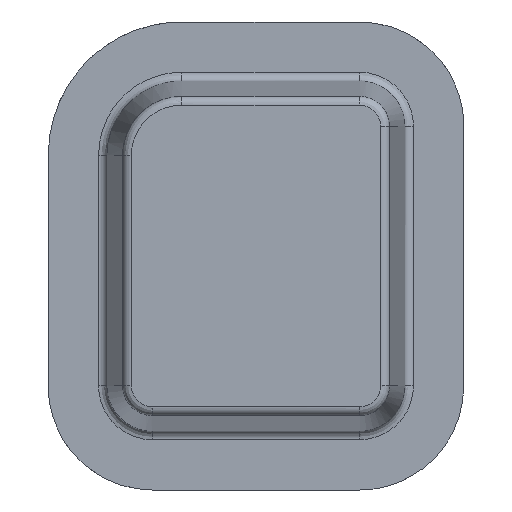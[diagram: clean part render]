
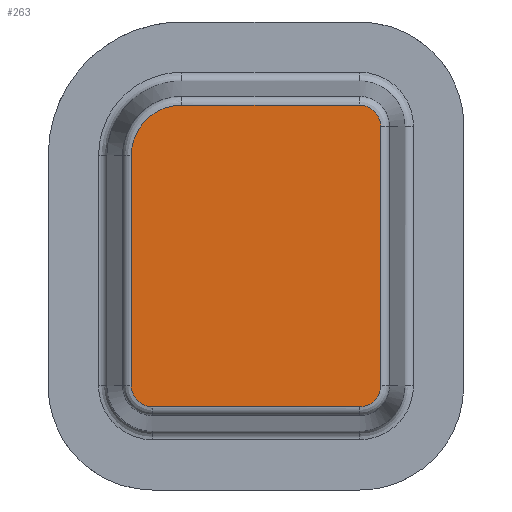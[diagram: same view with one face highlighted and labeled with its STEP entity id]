
A CAD part, front view. The second image highlights one B-rep face of the part: STEP entity #263.
In plain terms, the highlighted planar face has unit normal (0, -1, 0).
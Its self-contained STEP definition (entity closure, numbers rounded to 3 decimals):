
#144=CARTESIAN_POINT('Axis2P3D Location',(46.58,0.,53.42)) ;
#149=CARTESIAN_POINT('Line Origine',(2.749,0.,49.5)) ;
#153=CARTESIAN_POINT('Vertex',(2.749,0.,89.)) ;
#155=CARTESIAN_POINT('Vertex',(2.749,0.,10.)) ;
#159=CARTESIAN_POINT('Control Point',(2.749,0.,10.)) ;
#160=CARTESIAN_POINT('Control Point',(2.749,0.,9.038)) ;
#161=CARTESIAN_POINT('Control Point',(2.908,0.,8.077)) ;
#162=CARTESIAN_POINT('Control Point',(3.227,0.,7.152)) ;
#163=CARTESIAN_POINT('Control Point',(4.158,0.,5.442)) ;
#164=CARTESIAN_POINT('Control Point',(5.589,0.,4.124)) ;
#165=CARTESIAN_POINT('Control Point',(6.409,0.,3.59)) ;
#166=CARTESIAN_POINT('Control Point',(7.599,0.,3.072)) ;
#167=CARTESIAN_POINT('Control Point',(8.86,0.,2.828)) ;
#168=CARTESIAN_POINT('Control Point',(9.179,0.,2.785)) ;
#169=CARTESIAN_POINT('Control Point',(9.535,0.,2.756)) ;
#170=CARTESIAN_POINT('Control Point',(9.892,0.,2.75)) ;
#171=CARTESIAN_POINT('Control Point',(9.928,0.,2.749)) ;
#172=CARTESIAN_POINT('Control Point',(9.964,0.,2.749)) ;
#173=CARTESIAN_POINT('Control Point',(10.,0.,2.749)) ;
#174=CARTESIAN_POINT('Vertex',(10.,0.,2.749)) ;
#177=CARTESIAN_POINT('Line Origine',(45.5,0.,2.749)) ;
#181=CARTESIAN_POINT('Vertex',(81.,0.,2.749)) ;
#185=CARTESIAN_POINT('Control Point',(81.,0.,2.749)) ;
#186=CARTESIAN_POINT('Control Point',(81.962,0.,2.749)) ;
#187=CARTESIAN_POINT('Control Point',(82.923,0.,2.908)) ;
#188=CARTESIAN_POINT('Control Point',(83.848,0.,3.227)) ;
#189=CARTESIAN_POINT('Control Point',(85.558,0.,4.158)) ;
#190=CARTESIAN_POINT('Control Point',(86.876,0.,5.589)) ;
#191=CARTESIAN_POINT('Control Point',(87.41,0.,6.409)) ;
#192=CARTESIAN_POINT('Control Point',(87.928,0.,7.599)) ;
#193=CARTESIAN_POINT('Control Point',(88.172,0.,8.86)) ;
#194=CARTESIAN_POINT('Control Point',(88.215,0.,9.179)) ;
#195=CARTESIAN_POINT('Control Point',(88.244,0.,9.535)) ;
#196=CARTESIAN_POINT('Control Point',(88.25,0.,9.892)) ;
#197=CARTESIAN_POINT('Control Point',(88.251,0.,9.928)) ;
#198=CARTESIAN_POINT('Control Point',(88.251,0.,9.964)) ;
#199=CARTESIAN_POINT('Control Point',(88.251,0.,10.)) ;
#200=CARTESIAN_POINT('Vertex',(88.251,0.,10.)) ;
#203=CARTESIAN_POINT('Line Origine',(88.251,0.,54.5)) ;
#207=CARTESIAN_POINT('Vertex',(88.251,0.,99.)) ;
#211=CARTESIAN_POINT('Control Point',(88.251,0.,99.)) ;
#212=CARTESIAN_POINT('Control Point',(88.251,0.,99.962)) ;
#213=CARTESIAN_POINT('Control Point',(88.092,0.,100.923)) ;
#214=CARTESIAN_POINT('Control Point',(87.773,0.,101.848)) ;
#215=CARTESIAN_POINT('Control Point',(86.842,0.,103.558)) ;
#216=CARTESIAN_POINT('Control Point',(85.411,0.,104.876)) ;
#217=CARTESIAN_POINT('Control Point',(84.591,0.,105.41)) ;
#218=CARTESIAN_POINT('Control Point',(83.401,0.,105.928)) ;
#219=CARTESIAN_POINT('Control Point',(82.14,0.,106.172)) ;
#220=CARTESIAN_POINT('Control Point',(81.821,0.,106.215)) ;
#221=CARTESIAN_POINT('Control Point',(81.465,0.,106.244)) ;
#222=CARTESIAN_POINT('Control Point',(81.108,0.,106.25)) ;
#223=CARTESIAN_POINT('Control Point',(81.072,0.,106.251)) ;
#224=CARTESIAN_POINT('Control Point',(81.036,0.,106.251)) ;
#225=CARTESIAN_POINT('Control Point',(81.,0.,106.251)) ;
#226=CARTESIAN_POINT('Vertex',(81.,0.,106.251)) ;
#229=CARTESIAN_POINT('Line Origine',(50.5,0.,106.251)) ;
#233=CARTESIAN_POINT('Vertex',(20.,0.,106.251)) ;
#237=CARTESIAN_POINT('Control Point',(20.,0.,106.251)) ;
#238=CARTESIAN_POINT('Control Point',(18.077,0.,106.251)) ;
#239=CARTESIAN_POINT('Control Point',(16.154,0.,105.983)) ;
#240=CARTESIAN_POINT('Control Point',(14.282,0.,105.447)) ;
#241=CARTESIAN_POINT('Control Point',(10.736,0.,103.869)) ;
#242=CARTESIAN_POINT('Control Point',(7.757,0.,101.383)) ;
#243=CARTESIAN_POINT('Control Point',(6.451,0.,99.938)) ;
#244=CARTESIAN_POINT('Control Point',(4.493,0.,97.045)) ;
#245=CARTESIAN_POINT('Control Point',(3.313,0.,93.767)) ;
#246=CARTESIAN_POINT('Control Point',(2.954,0.,92.258)) ;
#247=CARTESIAN_POINT('Control Point',(2.762,0.,90.684)) ;
#248=CARTESIAN_POINT('Control Point',(2.749,0.,89.109)) ;
#249=CARTESIAN_POINT('Control Point',(2.749,0.,89.073)) ;
#250=CARTESIAN_POINT('Control Point',(2.749,0.,89.036)) ;
#251=CARTESIAN_POINT('Control Point',(2.749,0.,89.)) ;
#145=DIRECTION('Axis2P3D Direction',(0.,-1.,0.)) ;
#146=DIRECTION('Axis2P3D XDirection',(0.15,0.,0.989)) ;
#150=DIRECTION('Vector Direction',(0.,0.,1.)) ;
#178=DIRECTION('Vector Direction',(1.,0.,0.)) ;
#204=DIRECTION('Vector Direction',(0.,0.,1.)) ;
#230=DIRECTION('Vector Direction',(-1.,0.,0.)) ;
#147=AXIS2_PLACEMENT_3D('Plane Axis2P3D',#144,#145,#146) ;
#254=ORIENTED_EDGE('',*,*,#157,.T.) ;
#255=ORIENTED_EDGE('',*,*,#176,.T.) ;
#256=ORIENTED_EDGE('',*,*,#183,.T.) ;
#257=ORIENTED_EDGE('',*,*,#202,.T.) ;
#258=ORIENTED_EDGE('',*,*,#209,.T.) ;
#259=ORIENTED_EDGE('',*,*,#228,.T.) ;
#260=ORIENTED_EDGE('',*,*,#235,.T.) ;
#261=ORIENTED_EDGE('',*,*,#252,.T.) ;
#151=VECTOR('Line Direction',#150,1.) ;
#179=VECTOR('Line Direction',#178,1.) ;
#205=VECTOR('Line Direction',#204,1.) ;
#231=VECTOR('Line Direction',#230,1.) ;
#263=ADVANCED_FACE('base',(#262),#148,.T.) ;
#158=B_SPLINE_CURVE_WITH_KNOTS('',5,(#159,#160,#161,#162,#163,#164,#165,#166,#167,#168,#169,#170,#171,#172,#173),.UNSPECIFIED.,.F.,.U.,(6,3,3,3,6),(26.858,36.839,46.827,50.155,50.529),.UNSPECIFIED.) ;
#184=B_SPLINE_CURVE_WITH_KNOTS('',5,(#185,#186,#187,#188,#189,#190,#191,#192,#193,#194,#195,#196,#197,#198,#199),.UNSPECIFIED.,.F.,.U.,(6,3,3,3,6),(26.857,36.839,46.826,50.155,50.529),.UNSPECIFIED.) ;
#210=B_SPLINE_CURVE_WITH_KNOTS('',5,(#211,#212,#213,#214,#215,#216,#217,#218,#219,#220,#221,#222,#223,#224,#225),.UNSPECIFIED.,.F.,.U.,(6,3,3,3,6),(26.857,36.839,46.826,50.155,50.528),.UNSPECIFIED.) ;
#236=B_SPLINE_CURVE_WITH_KNOTS('',5,(#237,#238,#239,#240,#241,#242,#243,#244,#245,#246,#247,#248,#249,#250,#251),.UNSPECIFIED.,.F.,.U.,(6,3,3,3,6),(38.922,54.973,71.043,83.891,84.194),.UNSPECIFIED.) ;
#157=EDGE_CURVE('',#154,#156,#152,.F.) ;
#176=EDGE_CURVE('',#156,#175,#158,.T.) ;
#183=EDGE_CURVE('',#175,#182,#180,.T.) ;
#202=EDGE_CURVE('',#182,#201,#184,.T.) ;
#209=EDGE_CURVE('',#201,#208,#206,.T.) ;
#228=EDGE_CURVE('',#208,#227,#210,.T.) ;
#235=EDGE_CURVE('',#227,#234,#232,.T.) ;
#252=EDGE_CURVE('',#234,#154,#236,.T.) ;
#253=EDGE_LOOP('',(#254,#255,#256,#257,#258,#259,#260,#261)) ;
#262=FACE_OUTER_BOUND('',#253,.T.) ;
#152=LINE('Line',#149,#151) ;
#180=LINE('Line',#177,#179) ;
#206=LINE('Line',#203,#205) ;
#232=LINE('Line',#229,#231) ;
#148=PLANE('',#147) ;
#154=VERTEX_POINT('',#153) ;
#156=VERTEX_POINT('',#155) ;
#175=VERTEX_POINT('',#174) ;
#182=VERTEX_POINT('',#181) ;
#201=VERTEX_POINT('',#200) ;
#208=VERTEX_POINT('',#207) ;
#227=VERTEX_POINT('',#226) ;
#234=VERTEX_POINT('',#233) ;
